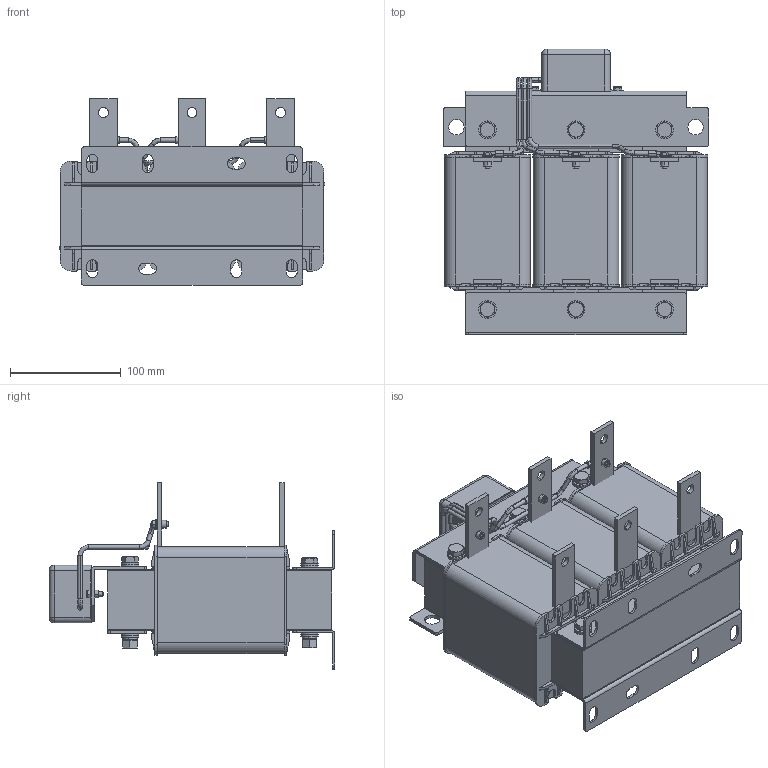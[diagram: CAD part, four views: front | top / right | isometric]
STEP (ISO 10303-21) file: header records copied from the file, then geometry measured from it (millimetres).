
FILE_DESCRIPTION (( 'STEP AP203' ), '1' );
FILE_NAME ('婰錪襝 dU_dT _ IDUDT-55_75-6.STEP', '2026-05-06T09:17:33', ( '' ), ( '' ), 'SwSTEP 2.0', 'SolidWorks 2021', '' );
FILE_SCHEMA (( 'CONFIG_CONTROL_DESIGN' ));
Length unit declared in the file: millimetre
Products named in the file (79): DVT-线圈-55kW_17; DVT-线圈-55kW_21; DVT-线圈-55kW_10; DVT-线圈-55kW_29; DVT-线圈-55kW_9; 婰錪襝 dU_dT _ IDUDT-55_75-6; DVT-线圈-55kW_5; DVT-线圈-55kW_40; DVT-线圈-55kW_38; 三相铁芯200-40-53-H202; DVT-线圈-55kW_34; spring lock washers--normal type gb_GB_FASTENER_WASHER_SW 8; DVT-线圈-55kW_24; DVT-线圈-55kW_25; M8ﾂﾝﾄｸ+ｵｯ+ﾋｫﾆｽ_4; M4℅12坋趼鞠褒芛蹟邡; DVT-线圈-55kW_2; 电容引线-37kW_1; DVT-外出线排25×4-76; DVT-线圈-55kW_1; DVT-线圈-55kW_15; M8ﾂﾝﾄｸ+ｵｯ+ﾋｫﾆｽ_2; 奻標璃-SKS-1044.404-LJ-A0; DVT-线圈-55kW_46; DVT-线圈-55kW_31; M8ﾂﾝﾄｸ+ｵｯ+ﾋｫﾆｽ_3; DVT-线圈-55kW_30; DVT-线圈-55kW_37; M8ﾂﾝﾄｸ+ｵｯ+ﾋｫﾆｽ_1; DVT-线圈-55kW_45; DVT-线圈-55kW_32; DVT-线圈-55kW_48; DVT-线圈-55kW; DVT-线圈-55kW_16; M8ﾂﾝﾄｸ+ｵｯ+ﾋｫﾆｽ_5; DVT-线圈-55kW_39; DVT-线圈-55kW_41; DVT-线圈-55kW_18; DVT-线圈-55kW_49; DVT-线圈-55kW_47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
Assembly tree (133 placements, depth 3):
  婰錪襝 dU_dT _ IDUDT-55_75-6
    三相铁芯200-40-53-H202
    嶺啣沭40-202  x6
    ﾉﾏｼﾐｼ220｡ﾁ35｡ﾁ3
    下夹件-200×38×35-通  x2
    plain washers--product grade c gb_GB_FASTENER_WASHER_SMWC 8  x12
    M8℅75蹟裝  x6
    M8ﾂﾝﾄｸ+ｵｯ+ﾋｫﾆｽ
      hex nut-fine pitch-style washer-grade ab gb_GB_HEXAGON_TYPE10_1 M8X1-N
      spring lock washers--normal type gb_GB_FASTENER_WASHER_SW 8
      plain washers--product grade c gb_GB_FASTENER_WASHER_SMWC 8  x2
    M8ﾂﾝﾄｸ+ｵｯ+ﾋｫﾆｽ_1
      hex nut-fine pitch-style washer-grade ab gb_GB_HEXAGON_TYPE10_1 M8X1-N
      spring lock washers--normal type gb_GB_FASTENER_WASHER_SW 8
      plain washers--product grade c gb_GB_FASTENER_WASHER_SMWC 8  x2
    DVT-外出线排25×4-76  x3
    M8ﾂﾝﾄｸ+ｵｯ+ﾋｫﾆｽ_2
      hex nut-fine pitch-style washer-grade ab gb_GB_HEXAGON_TYPE10_1 M8X1-N
      spring lock washers--normal type gb_GB_FASTENER_WASHER_SW 8
      plain washers--product grade c gb_GB_FASTENER_WASHER_SMWC 8  x2
    M8ﾂﾝﾄｸ+ｵｯ+ﾋｫﾆｽ_3
      hex nut-fine pitch-style washer-grade ab gb_GB_HEXAGON_TYPE10_1 M8X1-N
      spring lock washers--normal type gb_GB_FASTENER_WASHER_SW 8
      plain washers--product grade c gb_GB_FASTENER_WASHER_SMWC 8  x2
    M8ﾂﾝﾄｸ+ｵｯ+ﾋｫﾆｽ_4
      hex nut-fine pitch-style washer-grade ab gb_GB_HEXAGON_TYPE10_1 M8X1-N
      spring lock washers--normal type gb_GB_FASTENER_WASHER_SW 8
      plain washers--product grade c gb_GB_FASTENER_WASHER_SMWC 8  x2
    M8ﾂﾝﾄｸ+ｵｯ+ﾋｫﾆｽ_5
      hex nut-fine pitch-style washer-grade ab gb_GB_HEXAGON_TYPE10_1 M8X1-N
      spring lock washers--normal type gb_GB_FASTENER_WASHER_SW 8
      plain washers--product grade c gb_GB_FASTENER_WASHER_SMWC 8  x2
    奻標璃-SKS-1044.404-LJ-A0
    电容盒-SKS-0901.601-LJ-A2
    M4℅12坋趼鞠褒芛蹟邡  x5
    DVT-内出线排25×4-76  x3
    RNB1.25-4
    M4す菜  x3
    RNB3.5-4  x2
    电容引线-37kW
      电容引线-37kW_2
      电容引线-37kW
      电容引线-37kW_1
    DVT-线圈-55kW
      DVT-线圈-55kW_21
      DVT-线圈-55kW_17
      DVT-线圈-55kW_15
      DVT-线圈-55kW_9
      DVT-线圈-55kW_42
      DVT-线圈-55kW_33
      DVT-线圈-55kW_25
      DVT-线圈-55kW_45
      DVT-线圈-55kW_29
      DVT-线圈-55kW_23
      DVT-线圈-55kW_39
      DVT-线圈-55kW_41
      DVT-线圈-55kW_7
      DVT-线圈-55kW
      DVT-线圈-55kW_4
      DVT-线圈-55kW_35
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Bounding box: 240 x 258 x 168.5 mm (x, y, z)
Volume: 3841683.7 mm3; surface area: 703382.6 mm2
Topology: 125 solids, 125 shells, 1990 faces, 4922 edges, 3224 vertices
Faces by surface type: plane 1197, cylinder 596, cone 166, bspline 26, sphere 5
Entity records: 49626 total; most frequent: CARTESIAN_POINT 7355, DIRECTION 6923, ORIENTED_EDGE 6580, EDGE_CURVE 3290, VECTOR 2387, LINE 2387, AXIS2_PLACEMENT_3D 2268, VERTEX_POINT 2172
